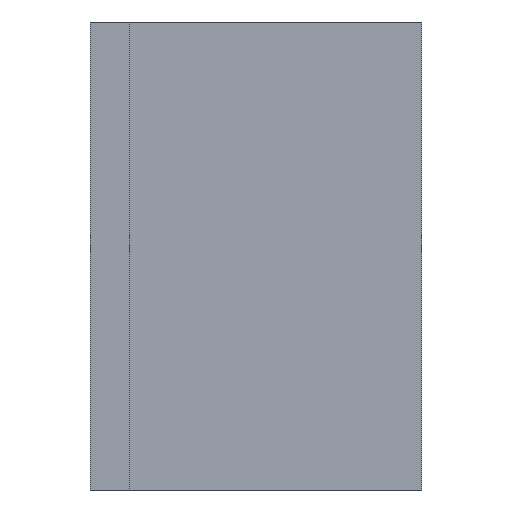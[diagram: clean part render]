
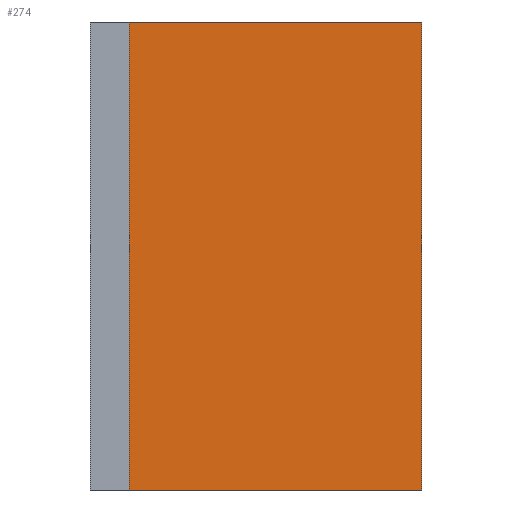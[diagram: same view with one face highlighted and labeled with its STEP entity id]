
A CAD part, left-side view. The second image highlights one B-rep face of the part: STEP entity #274.
In plain terms, the highlighted planar face has unit normal (-1, 0, 0).
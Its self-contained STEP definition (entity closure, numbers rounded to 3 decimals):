
#5 = ORIENTED_EDGE ( 'NONE', *, *, #171, .T. ) ;
#22 = CARTESIAN_POINT ( 'NONE',  ( 0., 0., -24. ) ) ;
#23 = CARTESIAN_POINT ( 'NONE',  ( 0., 15., -24. ) ) ;
#25 = CARTESIAN_POINT ( 'NONE',  ( 0., 0., -24. ) ) ;
#42 = DIRECTION ( 'NONE',  ( 0., 0., 1. ) ) ;
#100 = LINE ( 'NONE', #416, #374 ) ;
#104 = EDGE_CURVE ( 'NONE', #333, #380, #100, .T. ) ;
#121 = AXIS2_PLACEMENT_3D ( 'NONE', #445, #194, #524 ) ;
#130 = VECTOR ( 'NONE', #313, 1000. ) ;
#171 = EDGE_CURVE ( 'NONE', #277, #345, #463, .T. ) ;
#184 = FACE_OUTER_BOUND ( 'NONE', #225, .T. ) ;
#194 = DIRECTION ( 'NONE',  ( -1., 0., 0. ) ) ;
#202 = ORIENTED_EDGE ( 'NONE', *, *, #104, .F. ) ;
#225 = EDGE_LOOP ( 'NONE', ( #400, #202, #328, #5 ) ) ;
#234 = PLANE ( 'NONE',  #121 ) ;
#238 = CARTESIAN_POINT ( 'NONE',  ( 0., 15., 0. ) ) ;
#274 = ADVANCED_FACE ( 'NONE', ( #184 ), #234, .T. ) ;
#277 = VERTEX_POINT ( 'NONE', #25 ) ;
#313 = DIRECTION ( 'NONE',  ( 0., 0., 1. ) ) ;
#320 = DIRECTION ( 'NONE',  ( 0., -1., 0. ) ) ;
#324 = DIRECTION ( 'NONE',  ( 0., -1., 0. ) ) ;
#328 = ORIENTED_EDGE ( 'NONE', *, *, #406, .T. ) ;
#333 = VERTEX_POINT ( 'NONE', #23 ) ;
#345 = VERTEX_POINT ( 'NONE', #398 ) ;
#347 = VECTOR ( 'NONE', #320, 1000. ) ;
#374 = VECTOR ( 'NONE', #42, 1000. ) ;
#380 = VERTEX_POINT ( 'NONE', #238 ) ;
#398 = CARTESIAN_POINT ( 'NONE',  ( 0., 0., 0. ) ) ;
#400 = ORIENTED_EDGE ( 'NONE', *, *, #408, .F. ) ;
#406 = EDGE_CURVE ( 'NONE', #333, #277, #433, .T. ) ;
#408 = EDGE_CURVE ( 'NONE', #380, #345, #536, .T. ) ;
#416 = CARTESIAN_POINT ( 'NONE',  ( 0., 15., -24. ) ) ;
#419 = CARTESIAN_POINT ( 'NONE',  ( 0., 0., -24. ) ) ;
#423 = VECTOR ( 'NONE', #324, 1000. ) ;
#433 = LINE ( 'NONE', #22, #347 ) ;
#445 = CARTESIAN_POINT ( 'NONE',  ( 0., 0., -24. ) ) ;
#463 = LINE ( 'NONE', #419, #130 ) ;
#523 = CARTESIAN_POINT ( 'NONE',  ( 0., 0., 0. ) ) ;
#524 = DIRECTION ( 'NONE',  ( 0., 0., 1. ) ) ;
#536 = LINE ( 'NONE', #523, #423 ) ;
